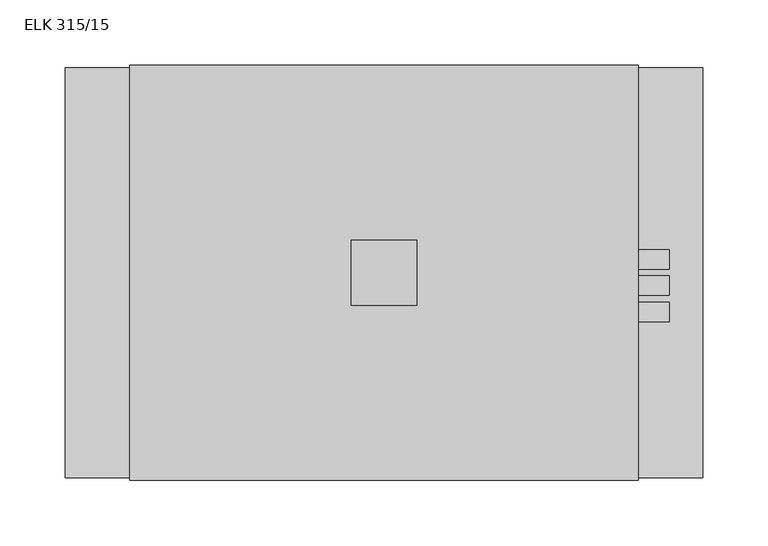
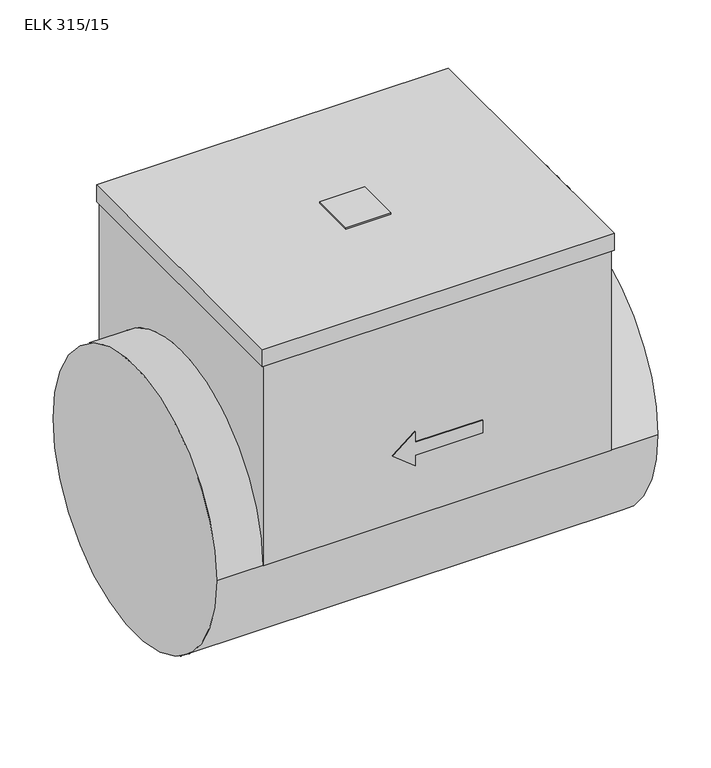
"""IFC4 building model written with IfcOpenShell, lengths in millimetres: proxy geometry, KORF_Нагреватель_Электрический_Круглый_ELK : ELK 315/15."""

from ifc_helpers import new_model, si_unit, point, frame, frame_2d, origin, place, context, project, spatial, polyline, circle_curve, trimmed, segment, composite_curve, outline, extrude, source, transform, mapped, element, save
from ifc_brep_helpers import plane_surface, cylinder_surface, advanced_brep


def elk_315_15_a8f8469e(model_context):
    return source(origin(), model_context, "Body", "SolidModel", [
        extrude(outline(polyline([(270.0, -25.0), (220.0, -25.0), (220.0, 25.0), (270.0, 25.0), (270.0, -25.0)])), frame((0.0, 0.0, 255.5), z_axis=(0.0, 0.0, 1.0), x_axis=(1.0, 0.0, 0.0)), (0.0, 0.0, 1.0), 2.0),
        extrude(outline(composite_curve([segment(trimmed(circle_curve(frame_2d((10.0, 215.5)), 7.5), [point((17.5, 215.5))], [point((2.5, 215.5))], False, "CARTESIAN"), True, "CONTINUOUS"), segment(trimmed(circle_curve(frame_2d((10.0, 215.5)), 7.5), [point((2.5, 215.5))], [point((17.5, 215.5))], False, "CARTESIAN"), True, "CONTINUOUS")], self_intersect=False)), frame((438.5, 0.0, 0.0), z_axis=(1.0, 0.0, 0.0), x_axis=(0.0, 1.0, 0.0)), (0.0, 0.0, 1.0), 25.75),
        extrude(outline(composite_curve([segment(trimmed(circle_curve(frame_2d((-10.0, 215.5)), 7.5), [point((-2.5, 215.5))], [point((-17.5, 215.5))], False, "CARTESIAN"), True, "CONTINUOUS"), segment(trimmed(circle_curve(frame_2d((-10.0, 215.5)), 7.5), [point((-17.5, 215.5))], [point((-2.5, 215.5))], False, "CARTESIAN"), True, "CONTINUOUS")], self_intersect=False)), frame((438.5, 0.0, 0.0), z_axis=(1.0, 0.0, 0.0), x_axis=(0.0, 1.0, 0.0)), (0.0, 0.0, 1.0), 25.75),
        extrude(outline(composite_curve([segment(trimmed(circle_curve(frame_2d((-30.0, 215.5)), 7.5), [point((-22.5, 215.5))], [point((-37.5, 215.5))], False, "CARTESIAN"), True, "CONTINUOUS"), segment(trimmed(circle_curve(frame_2d((-30.0, 215.5)), 7.5), [point((-37.5, 215.5))], [point((-22.5, 215.5))], False, "CARTESIAN"), True, "CONTINUOUS")], self_intersect=False)), frame((438.5, 0.0, 0.0), z_axis=(1.0, 0.0, 0.0), x_axis=(0.0, 1.0, 0.0)), (0.0, 0.0, 1.0), 25.75),
        advanced_brep(
        [(440.5, -159.5, 235.5), (49.5, -159.5, 235.5), (49.5, 159.5, 235.5), (440.5, 159.5, 235.5), (438.5, -157.5, 235.5), (438.5, 157.5, 235.5), (51.5, 157.5, 235.5), (51.5, -157.5, 235.5), (440.5, -159.5, 255.5), (440.5, 159.5, 255.5), (49.5, 159.5, 255.5), (49.5, -159.5, 255.5), (51.5, -157.5, 0.0), (438.5, -157.5, 0.0), (220.0, -157.5, 98.75), (220.0, -157.5, 86.25), (295.0, -157.5, 86.25), (295.0, -157.5, 71.25), (220.0, -157.5, 71.25), (220.0, -157.5, 58.75), (195.0, -157.5, 78.75), (51.5, 157.5, 0.0), (438.5, 157.5, 0.0), (195.0, 157.5, 78.75), (220.0, 157.5, 58.75), (220.0, 157.5, 71.25), (295.0, 157.5, 71.25), (295.0, 157.5, 86.25), (220.0, 157.5, 86.25), (220.0, 157.5, 98.75), (490.0, 157.5, 0.0), (490.0, -157.5, 0.0), (0.0, 157.5, 0.0), (0.0, -157.5, 0.0), (220.0, 158.5, 98.75), (220.0, 158.5, 86.25), (295.0, 158.5, 86.25), (295.0, 158.5, 71.25), (220.0, 158.5, 71.25), (220.0, 158.5, 58.75), (195.0, 158.5, 78.75), (220.0, -158.5, 98.75), (195.0, -158.5, 78.75), (220.0, -158.5, 58.75), (220.0, -158.5, 71.25), (295.0, -158.5, 71.25), (295.0, -158.5, 86.25), (220.0, -158.5, 86.25)],
        [
            (0, 1),
            (1, 2),
            (2, 3),
            (3, 0),
            (4, 5),
            (5, 6),
            (6, 7),
            (7, 4),
            (8, 9),
            (9, 10),
            (10, 11),
            (11, 8),
            (0, 8),
            (11, 1),
            (10, 2),
            (9, 3),
            (7, 12),
            (12, 13),
            (13, 4),
            (14, 15),
            (15, 16),
            (16, 17),
            (17, 18),
            (18, 19),
            (19, 20),
            (20, 14),
            (6, 21),
            (21, 12, circle_curve(frame((51.5, 0.0, 0.0), z_axis=(1.0, 0.0, 0.0), x_axis=(0.0, -1.0, 0.0)), 157.5)),
            (5, 22),
            (22, 21),
            (23, 24),
            (24, 25),
            (25, 26),
            (26, 27),
            (27, 28),
            (28, 29),
            (29, 23),
            (13, 22, circle_curve(frame((438.5, 0.0, 0.0), z_axis=(-1.0, 0.0, 0.0), x_axis=(0.0, -1.0, 0.0)), 157.5)),
            (30, 31, circle_curve(frame((490.0, 0.0, 0.0), z_axis=(1.0, 0.0, 0.0), x_axis=(0.0, -1.0, 0.0)), 157.5)),
            (31, 30, circle_curve(frame((490.0, 0.0, 0.0), z_axis=(1.0, 0.0, 0.0), x_axis=(0.0, -1.0, 0.0)), 157.5)),
            (32, 33, circle_curve(frame((0.0, 0.0, 0.0), z_axis=(-1.0, 0.0, 0.0), x_axis=(0.0, -1.0, 0.0)), 157.5)),
            (33, 32, circle_curve(frame((0.0, 0.0, 0.0), z_axis=(-1.0, 0.0, 0.0), x_axis=(0.0, -1.0, 0.0)), 157.5)),
            (31, 13),
            (12, 33),
            (32, 21),
            (22, 30),
            (34, 35),
            (35, 36),
            (36, 37),
            (37, 38),
            (38, 39),
            (39, 40),
            (40, 34),
            (41, 42),
            (42, 43),
            (43, 44),
            (44, 45),
            (45, 46),
            (46, 47),
            (47, 41),
            (40, 23),
            (29, 34),
            (41, 14),
            (20, 42),
            (19, 43),
            (39, 24),
            (18, 44),
            (38, 25),
            (17, 45),
            (37, 26),
            (16, 46),
            (36, 27),
            (15, 47),
            (35, 28),
        ],
        [
            plane_surface(frame((49.5, -159.5, 235.5), z_axis=(0.0, 0.0, -1.0), x_axis=(1.0, 0.0, 0.0))),
            plane_surface(frame((49.5, -159.5, 255.5), z_axis=(0.0, 0.0, 1.0), x_axis=(-1.0, 0.0, 0.0))),
            plane_surface(frame((440.5, -159.5, 255.5), z_axis=(0.0, -1.0, 0.0), x_axis=(0.0, 0.0, -1.0))),
            plane_surface(frame((49.5, -159.5, 255.5), z_axis=(-1.0, 0.0, 0.0), x_axis=(0.0, 0.0, -1.0))),
            plane_surface(frame((49.5, 159.5, 255.5), z_axis=(0.0, 1.0, 0.0), x_axis=(0.0, 0.0, -1.0))),
            plane_surface(frame((440.5, 159.5, 255.5), z_axis=(1.0, 0.0, 0.0), x_axis=(0.0, 0.0, -1.0))),
            plane_surface(frame((438.5, -157.5, 255.5), z_axis=(0.0, -1.0, 0.0), x_axis=(0.0, 0.0, -1.0))),
            plane_surface(frame((51.5, -157.5, 255.5), z_axis=(-1.0, 0.0, 0.0), x_axis=(0.0, 0.0, -1.0))),
            plane_surface(frame((51.5, 157.5, 255.5), z_axis=(0.0, 1.0, 0.0), x_axis=(0.0, 0.0, -1.0))),
            plane_surface(frame((438.5, 157.5, 255.5), z_axis=(1.0, 0.0, 0.0), x_axis=(0.0, 0.0, -1.0))),
            plane_surface(frame((490.0, -157.5, 0.0), z_axis=(1.0, 0.0, 0.0), x_axis=(0.0, 0.0, 1.0))),
            plane_surface(frame((0.0, -157.5, 0.0), z_axis=(-1.0, 0.0, 0.0), x_axis=(0.0, 0.0, -1.0))),
            cylinder_surface(frame((0.0, 0.0, 0.0), z_axis=(1.0, 0.0, 0.0), x_axis=(0.0, -1.0, 0.0)), 157.5),
            plane_surface(frame((195.0, 158.5, 78.75), z_axis=(0.0, 1.0000000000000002, 0.0), x_axis=(-0.7808688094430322, 0.0, -0.6246950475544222))),
            plane_surface(frame((195.0, -158.5, 78.75), z_axis=(0.0, -1.0000000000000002, 0.0), x_axis=(0.7808688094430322, 0.0, 0.6246950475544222))),
            plane_surface(frame((220.0, 158.5, 98.75), z_axis=(-0.6246950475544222, 0.0, 0.7808688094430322), x_axis=(0.0, -1.0, 0.0))),
            plane_surface(frame((195.0, 158.5, 78.75), z_axis=(-0.6246950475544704, 0.0, -0.7808688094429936), x_axis=(0.0, -1.0, 0.0))),
            plane_surface(frame((220.0, 158.5, 58.75), z_axis=(1.0, 0.0, 0.0), x_axis=(0.0, -1.0, 0.0))),
            plane_surface(frame((220.0, 158.5, 71.25), z_axis=(0.0, 0.0, -1.0), x_axis=(0.0, -1.0, 0.0))),
            plane_surface(frame((295.0, 158.5, 71.25), z_axis=(1.0, 0.0, 0.0), x_axis=(0.0, -1.0, 0.0))),
            plane_surface(frame((295.0, 158.5, 86.25), z_axis=(0.0, 0.0, 1.0), x_axis=(0.0, -1.0, 0.0))),
            plane_surface(frame((220.0, 158.5, 86.25), z_axis=(1.0, 0.0, 0.0), x_axis=(0.0, -1.0, 0.0))),
        ],
        [
            (0, [[1, 2, 3, 4], [5, 6, 7, 8]]),
            (1, [[9, 10, 11, 12]]),
            (2, [[13, -12, 14, -1]]),
            (3, [[-14, -11, 15, -2]]),
            (4, [[-15, -10, 16, -3]]),
            (5, [[-16, -9, -13, -4]]),
            (6, [[-8, 17, 18, 19], [20, 21, 22, 23, 24, 25, 26]]),
            (7, [[-7, 27, 28, -17]]),
            (8, [[-6, 29, 30, -27], [31, 32, 33, 34, 35, 36, 37]]),
            (9, [[38, -29, -5, -19]]),
            (10, [[39, 40]]),
            (11, [[41, 42]]),
            (12, [[43, -18, 44, -41, 45, -30, 46, -40]]),
            (12, [[-46, -38, -43, -39]]),
            (12, [[-44, -28, -45, -42]]),
            (13, [[47, 48, 49, 50, 51, 52, 53]]),
            (14, [[54, 55, 56, 57, 58, 59, 60]]),
            (15, [[61, -37, 62, -53]]),
            (15, [[63, -26, 64, -54]]),
            (16, [[-64, -25, 65, -55]]),
            (16, [[66, -31, -61, -52]]),
            (17, [[-65, -24, 67, -56]]),
            (17, [[68, -32, -66, -51]]),
            (18, [[-67, -23, 69, -57]]),
            (18, [[70, -33, -68, -50]]),
            (19, [[-69, -22, 71, -58]]),
            (19, [[72, -34, -70, -49]]),
            (20, [[-71, -21, 73, -59]]),
            (20, [[74, -35, -72, -48]]),
            (21, [[-62, -36, -74, -47]]),
            (21, [[-73, -20, -63, -60]]),
        ],
    ),
    ])


if __name__ == "__main__":
    model = new_model("IFC4")
    model_context = context("Model", 3, world=origin())
    ifc_project = project(units=[si_unit("LENGTHUNIT", "METRE", prefix="MILLI")], contexts=[model_context])
    site = spatial("IfcSite", under=ifc_project)
    building = spatial("IfcBuilding", under=site)
    placement = place(None, origin())
    elk_315_15_shape = elk_315_15_a8f8469e(model_context)
    element("IfcBuildingElementProxy", 1, Name="KORF_Нагреватель_Электрический_Круглый_ELK : ELK 315/15", ObjectType="KORF_Нагреватель_Электрический_Круглый_ELK : ELK 315/15", at=placement, inside=building, context=model_context, shape_type="MappedRepresentation", body=[
        mapped(elk_315_15_shape, transform((0.0, 0.0, 0.0), x_axis=(1.0, 0.0, 0.0), y_axis=(0.0, 1.0, 0.0), z_axis=(0.0, 0.0, 1.0))),
    ])
    save(model, "model.ifc")
